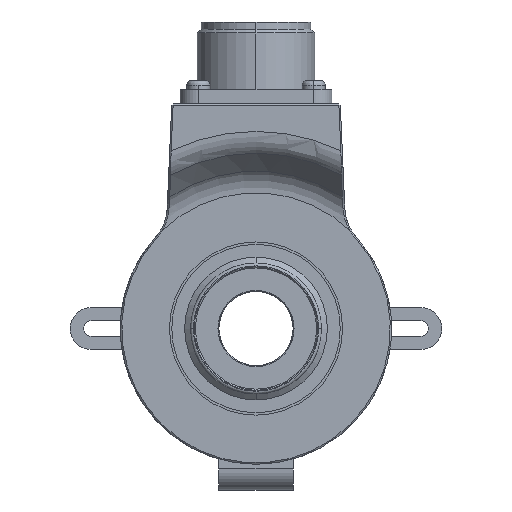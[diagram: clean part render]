
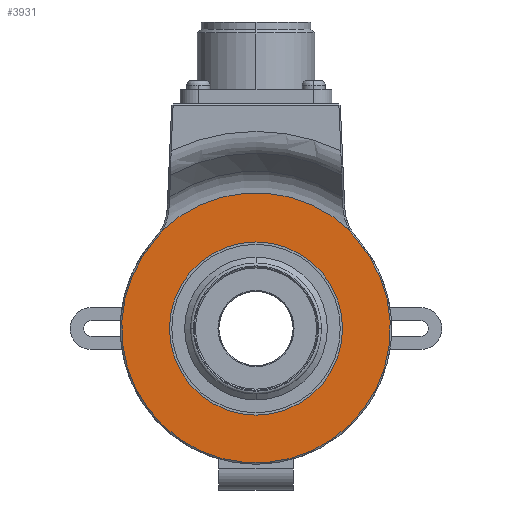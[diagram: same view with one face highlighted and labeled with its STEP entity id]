
A CAD part, left-side view. The second image highlights one B-rep face of the part: STEP entity #3931.
In plain terms, the highlighted planar face has unit normal (-1, 0, 0).
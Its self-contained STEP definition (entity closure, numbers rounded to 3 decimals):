
#592 = CARTESIAN_POINT ( 'NONE',  ( -27., -20.056, 20.946 ) ) ;
#781 = CARTESIAN_POINT ( 'NONE',  ( -27., 0., -18.5 ) ) ;
#853 = DIRECTION ( 'NONE',  ( -1., 0., 0. ) ) ;
#1024 = DIRECTION ( 'NONE',  ( 0., 0., -1. ) ) ;
#1564 = DIRECTION ( 'NONE',  ( -1., 0., 0. ) ) ;
#2035 = CARTESIAN_POINT ( 'NONE',  ( -27., 21.315, 19.218 ) ) ;
#2042 = CARTESIAN_POINT ( 'NONE',  ( -27., 28.965, 26.116 ) ) ;
#2248 = AXIS2_PLACEMENT_3D ( 'NONE', #20209, #3336, #11565 ) ;
#2823 = DIRECTION ( 'NONE',  ( 0., 0., -1. ) ) ;
#3336 = DIRECTION ( 'NONE',  ( 1., 0., 0. ) ) ;
#3931 = ADVANCED_FACE ( 'NONE', ( #25954, #7115 ), #21409, .T. ) ;
#4492 = ORIENTED_EDGE ( 'NONE', *, *, #18561, .T. ) ;
#4815 = EDGE_CURVE ( 'NONE', #13939, #10693, #16459, .T. ) ;
#5744 = EDGE_CURVE ( 'NONE', #10693, #13939, #9654, .T. ) ;
#6385 = EDGE_LOOP ( 'NONE', ( #15843, #7832, #4492, #17193 ) ) ;
#6506 = CIRCLE ( 'NONE', #12192, 28.7 ) ;
#6804 = AXIS2_PLACEMENT_3D ( 'NONE', #19840, #7488, #1024 ) ;
#7115 = FACE_OUTER_BOUND ( 'NONE', #6385, .T. ) ;
#7488 = DIRECTION ( 'NONE',  ( -1., 0., 0. ) ) ;
#7725 = VERTEX_POINT ( 'NONE', #10251 ) ;
#7832 = ORIENTED_EDGE ( 'NONE', *, *, #14013, .T. ) ;
#8363 = EDGE_CURVE ( 'NONE', #13353, #8883, #6506, .T. ) ;
#8406 = CARTESIAN_POINT ( 'NONE',  ( -27., -21.315, 19.218 ) ) ;
#8883 = VERTEX_POINT ( 'NONE', #8406 ) ;
#9053 = CARTESIAN_POINT ( 'NONE',  ( -27., 0., 0. ) ) ;
#9116 = CARTESIAN_POINT ( 'NONE',  ( -27., 0., 18.5 ) ) ;
#9602 = AXIS2_PLACEMENT_3D ( 'NONE', #16852, #25254, #17132 ) ;
#9654 = CIRCLE ( 'NONE', #11386, 18.5 ) ;
#10251 = CARTESIAN_POINT ( 'NONE',  ( -27., 20.056, 20.946 ) ) ;
#10272 = DIRECTION ( 'NONE',  ( 0., 0., -1. ) ) ;
#10303 = CARTESIAN_POINT ( 'NONE',  ( -27., 0., 0. ) ) ;
#10693 = VERTEX_POINT ( 'NONE', #781 ) ;
#10952 = DIRECTION ( 'NONE',  ( 0., 0., -1. ) ) ;
#11047 = CARTESIAN_POINT ( 'NONE',  ( -27., 0., 0. ) ) ;
#11386 = AXIS2_PLACEMENT_3D ( 'NONE', #10303, #1564, #11869 ) ;
#11565 = DIRECTION ( 'NONE',  ( 0., 0., -1. ) ) ;
#11869 = DIRECTION ( 'NONE',  ( 0., 0., -1. ) ) ;
#12192 = AXIS2_PLACEMENT_3D ( 'NONE', #11047, #853, #2823 ) ;
#12244 = CIRCLE ( 'NONE', #15780, 10.3 ) ;
#12312 = CIRCLE ( 'NONE', #2248, 10.3 ) ;
#13353 = VERTEX_POINT ( 'NONE', #2035 ) ;
#13939 = VERTEX_POINT ( 'NONE', #9116 ) ;
#14013 = EDGE_CURVE ( 'NONE', #8883, #26293, #12312, .T. ) ;
#15640 = DIRECTION ( 'NONE',  ( -1., 0., 0. ) ) ;
#15780 = AXIS2_PLACEMENT_3D ( 'NONE', #2042, #23334, #10272 ) ;
#15843 = ORIENTED_EDGE ( 'NONE', *, *, #8363, .T. ) ;
#16459 = CIRCLE ( 'NONE', #6804, 18.5 ) ;
#16852 = CARTESIAN_POINT ( 'NONE',  ( -27., 0., 0. ) ) ;
#17132 = DIRECTION ( 'NONE',  ( 0., 0., -1. ) ) ;
#17193 = ORIENTED_EDGE ( 'NONE', *, *, #18733, .T. ) ;
#18561 = EDGE_CURVE ( 'NONE', #26293, #7725, #21442, .T. ) ;
#18733 = EDGE_CURVE ( 'NONE', #7725, #13353, #12244, .T. ) ;
#19840 = CARTESIAN_POINT ( 'NONE',  ( -27., 0., 0. ) ) ;
#19899 = AXIS2_PLACEMENT_3D ( 'NONE', #9053, #15640, #10952 ) ;
#20209 = CARTESIAN_POINT ( 'NONE',  ( -27., -28.965, 26.116 ) ) ;
#21409 = PLANE ( 'NONE',  #19899 ) ;
#21442 = CIRCLE ( 'NONE', #9602, 29. ) ;
#23334 = DIRECTION ( 'NONE',  ( 1., 0., 0. ) ) ;
#24668 = EDGE_LOOP ( 'NONE', ( #25199, #24714 ) ) ;
#24714 = ORIENTED_EDGE ( 'NONE', *, *, #4815, .F. ) ;
#25199 = ORIENTED_EDGE ( 'NONE', *, *, #5744, .F. ) ;
#25254 = DIRECTION ( 'NONE',  ( -1., 0., 0. ) ) ;
#25954 = FACE_BOUND ( 'NONE', #24668, .T. ) ;
#26293 = VERTEX_POINT ( 'NONE', #592 ) ;
